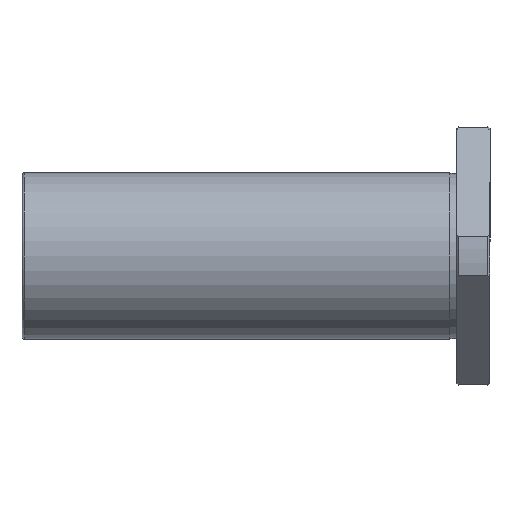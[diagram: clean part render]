
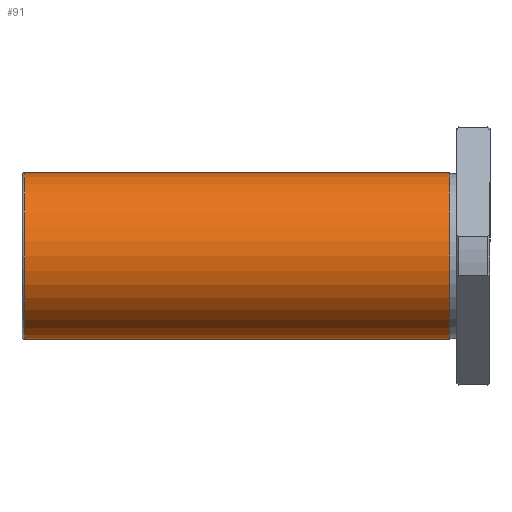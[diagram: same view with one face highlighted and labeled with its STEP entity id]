
A CAD part, front view. The second image highlights one B-rep face of the part: STEP entity #91.
In plain terms, the highlighted cylindrical face has radius 20 mm (diameter 40 mm), a full revolution.
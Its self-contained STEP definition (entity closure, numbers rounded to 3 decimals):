
#91=ADVANCED_FACE('',(#157,#158),#159,.T.);
#157=FACE_OUTER_BOUND('',#257,.T.);
#158=FACE_OUTER_BOUND('',#258,.T.);
#159=CYLINDRICAL_SURFACE('',#259,20.0);
#257=EDGE_LOOP('',(#429));
#258=EDGE_LOOP('',(#430));
#259=AXIS2_PLACEMENT_3D('',#431,#432,#433);
#429=ORIENTED_EDGE('',*,*,#603,.T.);
#430=ORIENTED_EDGE('',*,*,#617,.F.);
#431=CARTESIAN_POINT('',(-34.0,0.,0.));
#432=DIRECTION('',(-1.0,-0.0,0.));
#433=DIRECTION('',(0.0,1.0,0.0));
#603=EDGE_CURVE('',#709,#709,#710,.T.);
#617=EDGE_CURVE('',#735,#735,#736,.T.);
#709=VERTEX_POINT('',#875);
#710=CIRCLE('',#876,20.0);
#735=VERTEX_POINT('',#915);
#736=CIRCLE('',#916,20.0);
#875=CARTESIAN_POINT('',(-9.6,20.0,0.));
#876=AXIS2_PLACEMENT_3D('',#1019,#1020,#1021);
#915=CARTESIAN_POINT('',(-111.4,20.0,0.));
#916=AXIS2_PLACEMENT_3D('',#1045,#1046,#1047);
#1019=CARTESIAN_POINT('',(-9.6,0.,0.));
#1020=DIRECTION('',(-1.0,0.0,0.));
#1021=DIRECTION('',(0.0,1.0,0.0));
#1045=CARTESIAN_POINT('',(-111.4,0.,0.));
#1046=DIRECTION('',(-1.0,0.0,0.));
#1047=DIRECTION('',(0.0,1.0,0.0));
